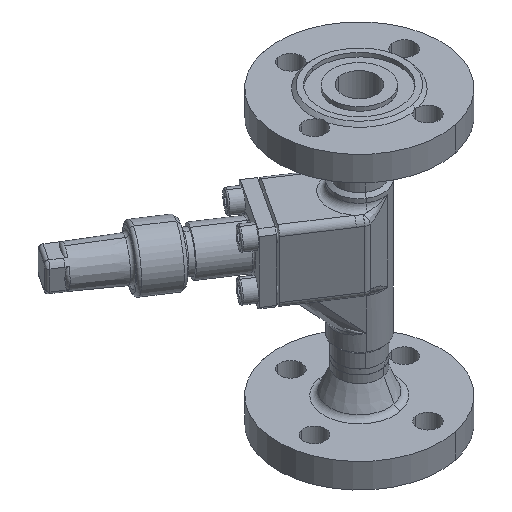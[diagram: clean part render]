
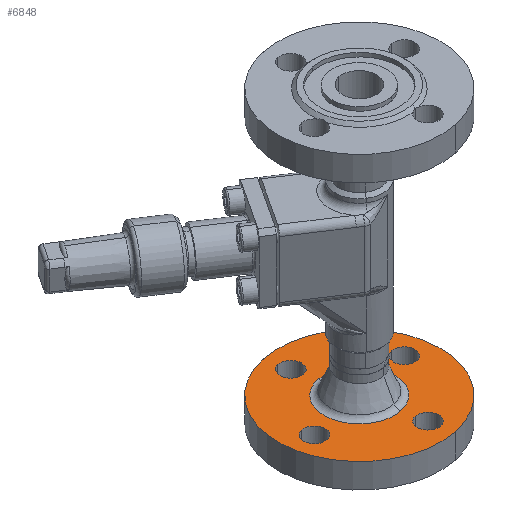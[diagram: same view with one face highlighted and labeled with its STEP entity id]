
A CAD part, isometric view. The second image highlights one B-rep face of the part: STEP entity #6848.
In plain terms, the highlighted planar face has unit normal (0, 0, 1) as drawn and (0, 1, 0) by its records, which use the part's own axes.
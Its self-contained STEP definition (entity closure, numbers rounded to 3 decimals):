
#208 = VERTEX_POINT ( 'NONE', #15962 ) ;
#520 = EDGE_CURVE ( 'NONE', #20284, #208, #20692, .T. ) ;
#17019 = CARTESIAN_POINT ( 'NONE',  ( 52.5, 18., 0. ) ) ;
#17020 = ORIENTED_EDGE ( 'NONE', *, *, #8697, .F. ) ;
#744 = EDGE_LOOP ( 'NONE', ( #13583, #13488 ) ) ;
#837 = VERTEX_POINT ( 'NONE', #990 ) ;
#990 = CARTESIAN_POINT ( 'NONE',  ( -22.685, 18., 0. ) ) ;
#1056 = EDGE_CURVE ( 'NONE', #2109, #837, #3005, .T. ) ;
#17501 = CARTESIAN_POINT ( 'NONE',  ( 30.5, 18., 0. ) ) ;
#17667 = CIRCLE ( 'NONE', #17668, 7. ) ;
#17668 = AXIS2_PLACEMENT_3D ( 'NONE', #17669, #17670, #17671 ) ;
#17669 = CARTESIAN_POINT ( 'NONE',  ( 0., 18., -37.5 ) ) ;
#17670 = DIRECTION ( 'NONE',  ( 0., 1., 0. ) ) ;
#17671 = DIRECTION ( 'NONE',  ( 0., 0., 1. ) ) ;
#17848 = EDGE_CURVE ( 'NONE', #8249, #7142, #15393, .T. ) ;
#17877 = CIRCLE ( 'NONE', #17878, 7. ) ;
#17878 = AXIS2_PLACEMENT_3D ( 'NONE', #17879, #17880, #17881 ) ;
#17879 = CARTESIAN_POINT ( 'NONE',  ( 37.5, 18., 0. ) ) ;
#17880 = DIRECTION ( 'NONE',  ( 0., 1., 0. ) ) ;
#17881 = DIRECTION ( 'NONE',  ( -1., 0., 0. ) ) ;
#18400 = ORIENTED_EDGE ( 'NONE', *, *, #11612, .F. ) ;
#18401 = ORIENTED_EDGE ( 'NONE', *, *, #17848, .T. ) ;
#2109 = VERTEX_POINT ( 'NONE', #7781 ) ;
#2488 = EDGE_CURVE ( 'NONE', #11385, #12508, #8470, .T. ) ;
#3005 = CIRCLE ( 'NONE', #3006, 22.685 ) ;
#3006 = AXIS2_PLACEMENT_3D ( 'NONE', #3007, #3008, #3009 ) ;
#3007 = CARTESIAN_POINT ( 'NONE',  ( 0., 18., 0. ) ) ;
#3008 = DIRECTION ( 'NONE',  ( 0., 1., 0. ) ) ;
#3009 = DIRECTION ( 'NONE',  ( -1., 0., 0. ) ) ;
#19540 = ORIENTED_EDGE ( 'NONE', *, *, #4107, .F. ) ;
#3349 = VERTEX_POINT ( 'NONE', #9254 ) ;
#19788 = ORIENTED_EDGE ( 'NONE', *, *, #3572, .F. ) ;
#3572 = EDGE_CURVE ( 'NONE', #4622, #3349, #9387, .T. ) ;
#20193 = EDGE_LOOP ( 'NONE', ( #12888, #12428 ) ) ;
#3888 = VERTEX_POINT ( 'NONE', #9850 ) ;
#20284 = VERTEX_POINT ( 'NONE', #17501 ) ;
#4107 = EDGE_CURVE ( 'NONE', #4999, #3888, #10010, .T. ) ;
#20507 = EDGE_CURVE ( 'NONE', #208, #20284, #17877, .T. ) ;
#20652 = ORIENTED_EDGE ( 'NONE', *, *, #2488, .F. ) ;
#20692 = CIRCLE ( 'NONE', #20693, 7. ) ;
#20693 = AXIS2_PLACEMENT_3D ( 'NONE', #20694, #20695, #20696 ) ;
#20694 = CARTESIAN_POINT ( 'NONE',  ( 37.5, 18., 0. ) ) ;
#20695 = DIRECTION ( 'NONE',  ( 0., 1., 0. ) ) ;
#20696 = DIRECTION ( 'NONE',  ( -1., 0., 0. ) ) ;
#20847 = EDGE_LOOP ( 'NONE', ( #7618, #18401 ) ) ;
#4622 = VERTEX_POINT ( 'NONE', #10939 ) ;
#21102 = EDGE_LOOP ( 'NONE', ( #13321, #19788 ) ) ;
#4999 = VERTEX_POINT ( 'NONE', #12846 ) ;
#5312 = CARTESIAN_POINT ( 'NONE',  ( -7., 18., 37.5 ) ) ;
#6603 = EDGE_LOOP ( 'NONE', ( #17020, #19540 ) ) ;
#6848 = ADVANCED_FACE ( 'NONE', ( #15066, #15067, #15068, #15069, #15074, #15075 ), #15076, .F. ) ;
#7142 = VERTEX_POINT ( 'NONE', #15347 ) ;
#7197 = EDGE_CURVE ( 'NONE', #837, #2109, #15377, .T. ) ;
#7359 = EDGE_CURVE ( 'NONE', #7142, #8249, #15708, .T. ) ;
#7618 = ORIENTED_EDGE ( 'NONE', *, *, #7359, .T. ) ;
#7776 = CIRCLE ( 'NONE', #7777, 7. ) ;
#7777 = AXIS2_PLACEMENT_3D ( 'NONE', #7778, #7779, #7780 ) ;
#7778 = CARTESIAN_POINT ( 'NONE',  ( 0., 18., 37.5 ) ) ;
#7779 = DIRECTION ( 'NONE',  ( 0., 1., 0. ) ) ;
#7780 = DIRECTION ( 'NONE',  ( 0., 0., -1. ) ) ;
#7781 = CARTESIAN_POINT ( 'NONE',  ( 22.685, 18., 0. ) ) ;
#8249 = VERTEX_POINT ( 'NONE', #17019 ) ;
#8470 = CIRCLE ( 'NONE', #8471, 7. ) ;
#8471 = AXIS2_PLACEMENT_3D ( 'NONE', #8472, #8473, #8474 ) ;
#8472 = CARTESIAN_POINT ( 'NONE',  ( 0., 18., 37.5 ) ) ;
#8473 = DIRECTION ( 'NONE',  ( 0., 1., 0. ) ) ;
#8474 = DIRECTION ( 'NONE',  ( 0., 0., -1. ) ) ;
#8697 = EDGE_CURVE ( 'NONE', #3888, #4999, #17667, .T. ) ;
#8820 = CARTESIAN_POINT ( 'NONE',  ( 7., 18., 37.5 ) ) ;
#9254 = CARTESIAN_POINT ( 'NONE',  ( -44.5, 18., 0. ) ) ;
#9387 = CIRCLE ( 'NONE', #9388, 7. ) ;
#9388 = AXIS2_PLACEMENT_3D ( 'NONE', #9389, #9390, #9391 ) ;
#9389 = CARTESIAN_POINT ( 'NONE',  ( -37.5, 18., 0. ) ) ;
#9390 = DIRECTION ( 'NONE',  ( 0., 1., 0. ) ) ;
#9391 = DIRECTION ( 'NONE',  ( 1., 0., 0. ) ) ;
#9469 = CIRCLE ( 'NONE', #9470, 7. ) ;
#9470 = AXIS2_PLACEMENT_3D ( 'NONE', #9471, #9472, #9475 ) ;
#9471 = CARTESIAN_POINT ( 'NONE',  ( -37.5, 18., 0. ) ) ;
#9472 = DIRECTION ( 'NONE',  ( 0., 1., 0. ) ) ;
#9475 = DIRECTION ( 'NONE',  ( 1., 0., 0. ) ) ;
#9850 = CARTESIAN_POINT ( 'NONE',  ( -7., 18., -37.5 ) ) ;
#10010 = CIRCLE ( 'NONE', #10011, 7. ) ;
#10011 = AXIS2_PLACEMENT_3D ( 'NONE', #10012, #10013, #10014 ) ;
#10012 = CARTESIAN_POINT ( 'NONE',  ( 0., 18., -37.5 ) ) ;
#10013 = DIRECTION ( 'NONE',  ( 0., 1., 0. ) ) ;
#10014 = DIRECTION ( 'NONE',  ( 0., 0., 1. ) ) ;
#10939 = CARTESIAN_POINT ( 'NONE',  ( -30.5, 18., 0. ) ) ;
#11385 = VERTEX_POINT ( 'NONE', #5312 ) ;
#11612 = EDGE_CURVE ( 'NONE', #12508, #11385, #7776, .T. ) ;
#11852 = EDGE_LOOP ( 'NONE', ( #20652, #18400 ) ) ;
#12428 = ORIENTED_EDGE ( 'NONE', *, *, #20507, .F. ) ;
#12508 = VERTEX_POINT ( 'NONE', #8820 ) ;
#12846 = CARTESIAN_POINT ( 'NONE',  ( 7., 18., -37.5 ) ) ;
#12888 = ORIENTED_EDGE ( 'NONE', *, *, #520, .F. ) ;
#13223 = EDGE_CURVE ( 'NONE', #3349, #4622, #9469, .T. ) ;
#13321 = ORIENTED_EDGE ( 'NONE', *, *, #13223, .F. ) ;
#13488 = ORIENTED_EDGE ( 'NONE', *, *, #1056, .F. ) ;
#13583 = ORIENTED_EDGE ( 'NONE', *, *, #7197, .F. ) ;
#15066 = FACE_BOUND ( 'NONE', #6603, .T. ) ;
#15067 = FACE_BOUND ( 'NONE', #21102, .T. ) ;
#15068 = FACE_BOUND ( 'NONE', #11852, .T. ) ;
#15069 = FACE_BOUND ( 'NONE', #20193, .T. ) ;
#15074 = FACE_BOUND ( 'NONE', #744, .T. ) ;
#15075 = FACE_OUTER_BOUND ( 'NONE', #20847, .T. ) ;
#15076 = PLANE ( 'NONE',  #15077 ) ;
#15077 = AXIS2_PLACEMENT_3D ( 'NONE', #15078, #15079, #15080 ) ;
#15078 = CARTESIAN_POINT ( 'NONE',  ( 52.5, 18., 0. ) ) ;
#15079 = DIRECTION ( 'NONE',  ( 0., -1., 0. ) ) ;
#15080 = DIRECTION ( 'NONE',  ( 1., 0., 0. ) ) ;
#15347 = CARTESIAN_POINT ( 'NONE',  ( -52.5, 18., 0. ) ) ;
#15377 = CIRCLE ( 'NONE', #15378, 22.685 ) ;
#15378 = AXIS2_PLACEMENT_3D ( 'NONE', #15379, #15380, #15381 ) ;
#15379 = CARTESIAN_POINT ( 'NONE',  ( 0., 18., 0. ) ) ;
#15380 = DIRECTION ( 'NONE',  ( 0., 1., 0. ) ) ;
#15381 = DIRECTION ( 'NONE',  ( -1., 0., 0. ) ) ;
#15393 = CIRCLE ( 'NONE', #15394, 52.5 ) ;
#15394 = AXIS2_PLACEMENT_3D ( 'NONE', #15395, #15396, #15397 ) ;
#15395 = CARTESIAN_POINT ( 'NONE',  ( 0., 18., 0. ) ) ;
#15396 = DIRECTION ( 'NONE',  ( 0., 1., 0. ) ) ;
#15397 = DIRECTION ( 'NONE',  ( -1., 0., 0. ) ) ;
#15708 = CIRCLE ( 'NONE', #15709, 52.5 ) ;
#15709 = AXIS2_PLACEMENT_3D ( 'NONE', #15710, #15711, #15712 ) ;
#15710 = CARTESIAN_POINT ( 'NONE',  ( 0., 18., 0. ) ) ;
#15711 = DIRECTION ( 'NONE',  ( 0., 1., 0. ) ) ;
#15712 = DIRECTION ( 'NONE',  ( -1., 0., 0. ) ) ;
#15962 = CARTESIAN_POINT ( 'NONE',  ( 44.5, 18., 0. ) ) ;
